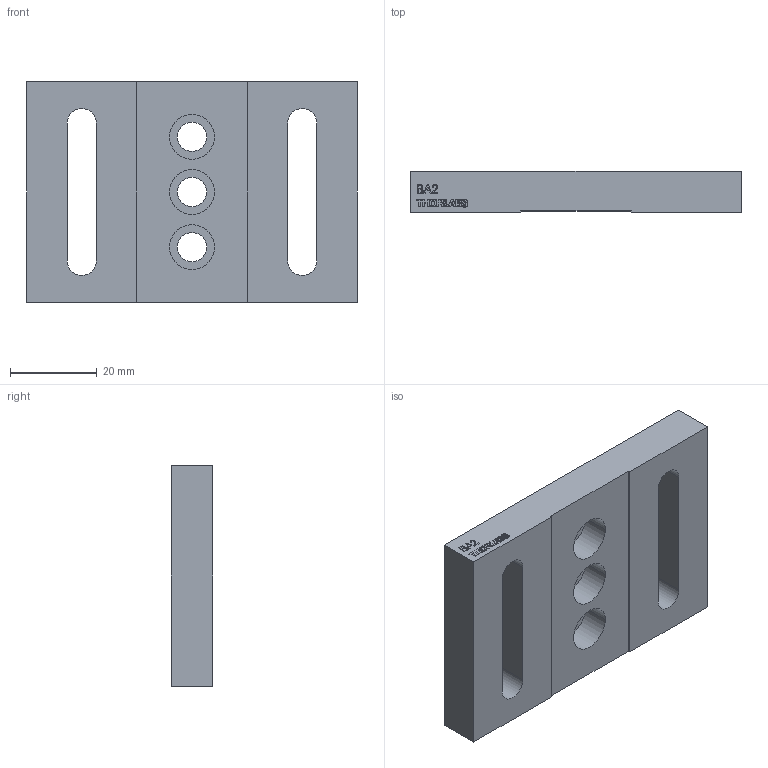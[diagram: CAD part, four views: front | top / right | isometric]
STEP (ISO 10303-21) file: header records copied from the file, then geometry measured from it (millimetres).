
FILE_DESCRIPTION (( 'STEP AP214' ), '1' );
FILE_NAME ('0080-E0W.STEP', '2024-05-23T20:12:59', ( '' ), ( '' ), 'SwSTEP 2.0', 'SolidWorks 2022', '' );
FILE_SCHEMA (( 'AUTOMOTIVE_DESIGN' ));
Length unit declared in the file: millimetre
Products named in the file (1): 0080-E0W
Bounding box: 76.2 x 9.53 x 50.8 mm (x, y, z)
Volume: 29722.6 mm3; surface area: 11381.5 mm2
Topology: 1 solids, 1 shells, 238 faces, 636 edges, 424 vertices
Faces by surface type: plane 140, bspline 80, cylinder 18
Entity records: 11324 total; most frequent: CARTESIAN_POINT 3215, ORIENTED_EDGE 1272, DIRECTION 830, EDGE_CURVE 636, LINE 440, VECTOR 440, VERTEX_POINT 424, EDGE_LOOP 272
